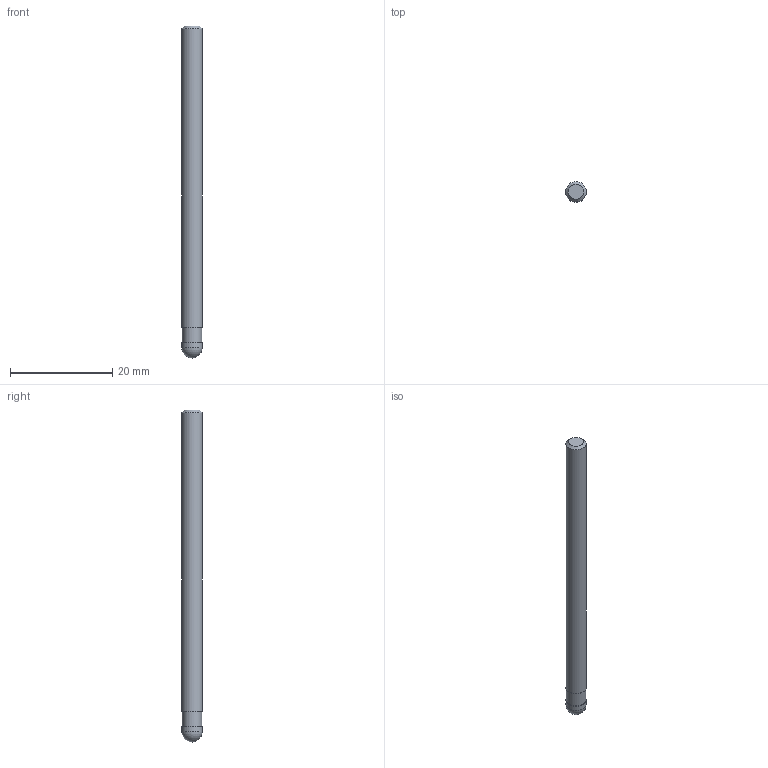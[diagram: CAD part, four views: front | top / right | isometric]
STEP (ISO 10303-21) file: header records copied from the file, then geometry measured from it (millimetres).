
FILE_DESCRIPTION((''),'2;1');
FILE_NAME('C:\Users\nsx150\AppData\Local\Temp\Mastercam 2021\ARV7HD45SN\TEMP.step','2023-06-13T16:38:54',(''),(''),'STEP Write','Mastercam 2021 ... CNC Software, Inc.','');
FILE_SCHEMA(('AUTOMOTIVE_DESIGN'));
Length unit declared in the file: millimetre
Products named in the file (1): None
Bounding box: 4 x 4 x 65 mm (x, y, z)
Volume: 803.3 mm3; surface area: 848.6 mm2
Topology: 2 solids, 2 shells, 9 faces, 13 edges, 8 vertices
Faces by surface type: plane 4, cylinder 3, sphere 1, cone 1
Full cylindrical faces by diameter (mm): 3.8 x1, 4 x2
Entity records: 211 total; most frequent: DIRECTION 36, CARTESIAN_POINT 25, AXIS2_PLACEMENT_3D 18, ORIENTED_EDGE 14, EDGE_LOOP 14, STYLED_ITEM 12, ADVANCED_FACE 9, FACE_BOUND 8
